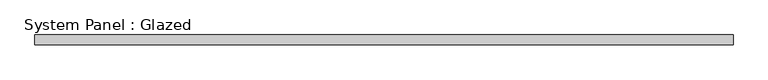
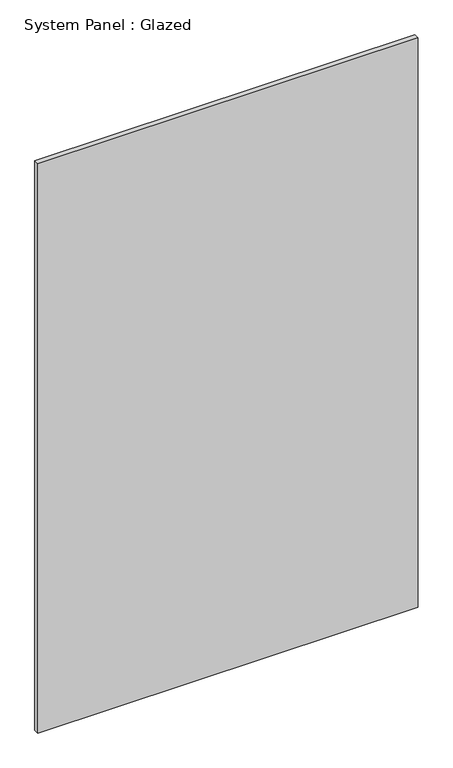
"""IFC4 building model written with IfcOpenShell, lengths in millimetres: plate geometry, System Panel : Glazed."""

from ifc_helpers import new_model, si_unit, origin, origin_with_axes, place, context, project, spatial, polyline, outline, extrude, source, transform, mapped, element, save


def system_panel_glazed_a1a4891f(model_context):
    return source(origin(), model_context, "Body", "SweptSolid", [
        extrude(outline(polyline([(918.2499999, 19.05), (-918.2499999, 19.05), (-918.2499999, 44.45), (918.2499999, 44.45), (918.2499999, 19.05)])), origin_with_axes(), (0.0, 0.0, 1.0), 2904.75),
    ])


if __name__ == "__main__":
    model = new_model("IFC4")
    model_context = context("Model", 3, world=origin())
    ifc_project = project(units=[si_unit("LENGTHUNIT", "METRE", prefix="MILLI")], contexts=[model_context])
    site = spatial("IfcSite", under=ifc_project)
    building = spatial("IfcBuilding", under=site)
    placement = place(None, origin())
    system_panel_glazed_shape = system_panel_glazed_a1a4891f(model_context)
    element("IfcPlate", 1, ObjectType="System Panel : Glazed", at=placement, inside=building, context=model_context, shape_type="MappedRepresentation", body=[
        mapped(system_panel_glazed_shape, transform((0.0, 0.0, 0.0), x_axis=(1.0, 0.0, 0.0), y_axis=(0.0, 1.0, 0.0), z_axis=(0.0, 0.0, 1.0))),
    ])
    save(model, "model.ifc")
